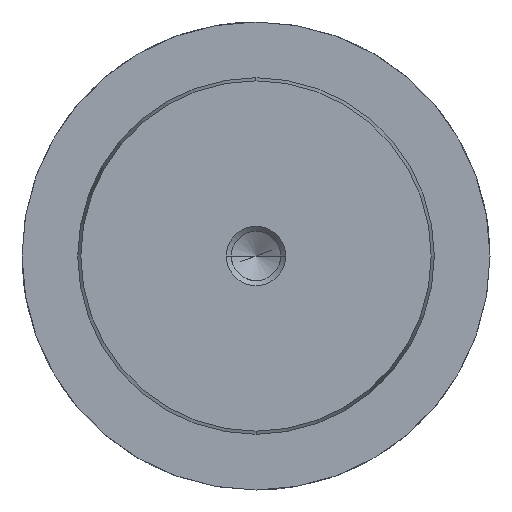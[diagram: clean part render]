
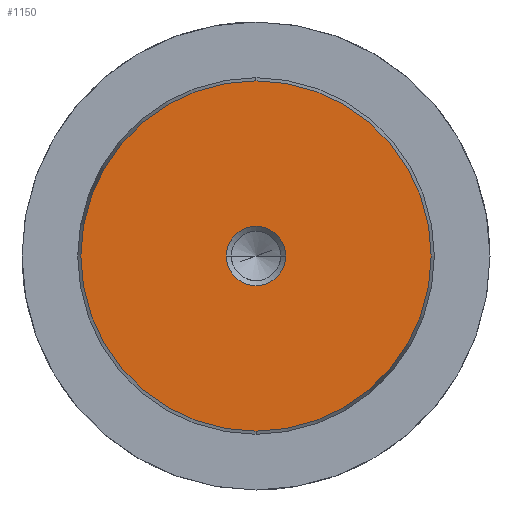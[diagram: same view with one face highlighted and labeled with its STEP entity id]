
A CAD part, left-side view. The second image highlights one B-rep face of the part: STEP entity #1150.
In plain terms, the highlighted planar face has unit normal (-1, 0, 0).
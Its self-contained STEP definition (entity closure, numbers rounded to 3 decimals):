
#1064=CARTESIAN_POINT('Vertex',(0.,0.,-23.578)) ;
#1067=CARTESIAN_POINT('Axis2P3D Location',(0.,0.,0.)) ;
#1071=CARTESIAN_POINT('Vertex',(0.,23.578,0.)) ;
#1074=CARTESIAN_POINT('Axis2P3D Location',(0.,0.,0.)) ;
#1078=CARTESIAN_POINT('Vertex',(0.,0.,23.578)) ;
#1100=CARTESIAN_POINT('Axis2P3D Location',(0.,0.,0.)) ;
#1104=CARTESIAN_POINT('Vertex',(0.,-23.578,0.)) ;
#1107=CARTESIAN_POINT('Axis2P3D Location',(0.,0.,0.)) ;
#1121=CARTESIAN_POINT('Axis2P3D Location',(0.,0.,0.)) ;
#1132=CARTESIAN_POINT('Axis2P3D Location',(0.,0.,0.)) ;
#1136=CARTESIAN_POINT('Vertex',(0.,4.,0.)) ;
#1138=CARTESIAN_POINT('Vertex',(0.,-4.,0.)) ;
#1141=CARTESIAN_POINT('Axis2P3D Location',(0.,0.,0.)) ;
#1068=DIRECTION('Axis2P3D Direction',(1.,0.,-0.)) ;
#1075=DIRECTION('Axis2P3D Direction',(1.,0.,-0.)) ;
#1101=DIRECTION('Axis2P3D Direction',(1.,0.,-0.)) ;
#1108=DIRECTION('Axis2P3D Direction',(1.,0.,-0.)) ;
#1122=DIRECTION('Axis2P3D Direction',(1.,0.,-0.)) ;
#1123=DIRECTION('Axis2P3D XDirection',(-0.,0.,-1.)) ;
#1133=DIRECTION('Axis2P3D Direction',(1.,0.,-0.)) ;
#1142=DIRECTION('Axis2P3D Direction',(1.,0.,-0.)) ;
#1069=AXIS2_PLACEMENT_3D('Circle Axis2P3D',#1067,#1068,$) ;
#1076=AXIS2_PLACEMENT_3D('Circle Axis2P3D',#1074,#1075,$) ;
#1102=AXIS2_PLACEMENT_3D('Circle Axis2P3D',#1100,#1101,$) ;
#1109=AXIS2_PLACEMENT_3D('Circle Axis2P3D',#1107,#1108,$) ;
#1124=AXIS2_PLACEMENT_3D('Plane Axis2P3D',#1121,#1122,#1123) ;
#1134=AXIS2_PLACEMENT_3D('Circle Axis2P3D',#1132,#1133,$) ;
#1143=AXIS2_PLACEMENT_3D('Circle Axis2P3D',#1141,#1142,$) ;
#1127=ORIENTED_EDGE('',*,*,#1073,.F.) ;
#1128=ORIENTED_EDGE('',*,*,#1111,.F.) ;
#1129=ORIENTED_EDGE('',*,*,#1106,.F.) ;
#1130=ORIENTED_EDGE('',*,*,#1080,.F.) ;
#1147=ORIENTED_EDGE('',*,*,#1140,.T.) ;
#1148=ORIENTED_EDGE('',*,*,#1145,.T.) ;
#1149=FACE_BOUND('',#1146,.T.) ;
#1150=ADVANCED_FACE('718-48x160',(#1131,#1149),#1125,.F.) ;
#1070=CIRCLE('generated circle',#1069,23.578) ;
#1077=CIRCLE('generated circle',#1076,23.578) ;
#1103=CIRCLE('generated circle',#1102,23.578) ;
#1110=CIRCLE('generated circle',#1109,23.578) ;
#1135=CIRCLE('generated circle',#1134,4.) ;
#1144=CIRCLE('generated circle',#1143,4.) ;
#1073=EDGE_CURVE('',#1065,#1072,#1070,.T.) ;
#1080=EDGE_CURVE('',#1072,#1079,#1077,.T.) ;
#1106=EDGE_CURVE('',#1079,#1105,#1103,.T.) ;
#1111=EDGE_CURVE('',#1105,#1065,#1110,.T.) ;
#1140=EDGE_CURVE('',#1137,#1139,#1135,.T.) ;
#1145=EDGE_CURVE('',#1139,#1137,#1144,.T.) ;
#1126=EDGE_LOOP('',(#1127,#1128,#1129,#1130)) ;
#1146=EDGE_LOOP('',(#1147,#1148)) ;
#1131=FACE_OUTER_BOUND('',#1126,.T.) ;
#1125=PLANE('Plane',#1124) ;
#1065=VERTEX_POINT('',#1064) ;
#1072=VERTEX_POINT('',#1071) ;
#1079=VERTEX_POINT('',#1078) ;
#1105=VERTEX_POINT('',#1104) ;
#1137=VERTEX_POINT('',#1136) ;
#1139=VERTEX_POINT('',#1138) ;
